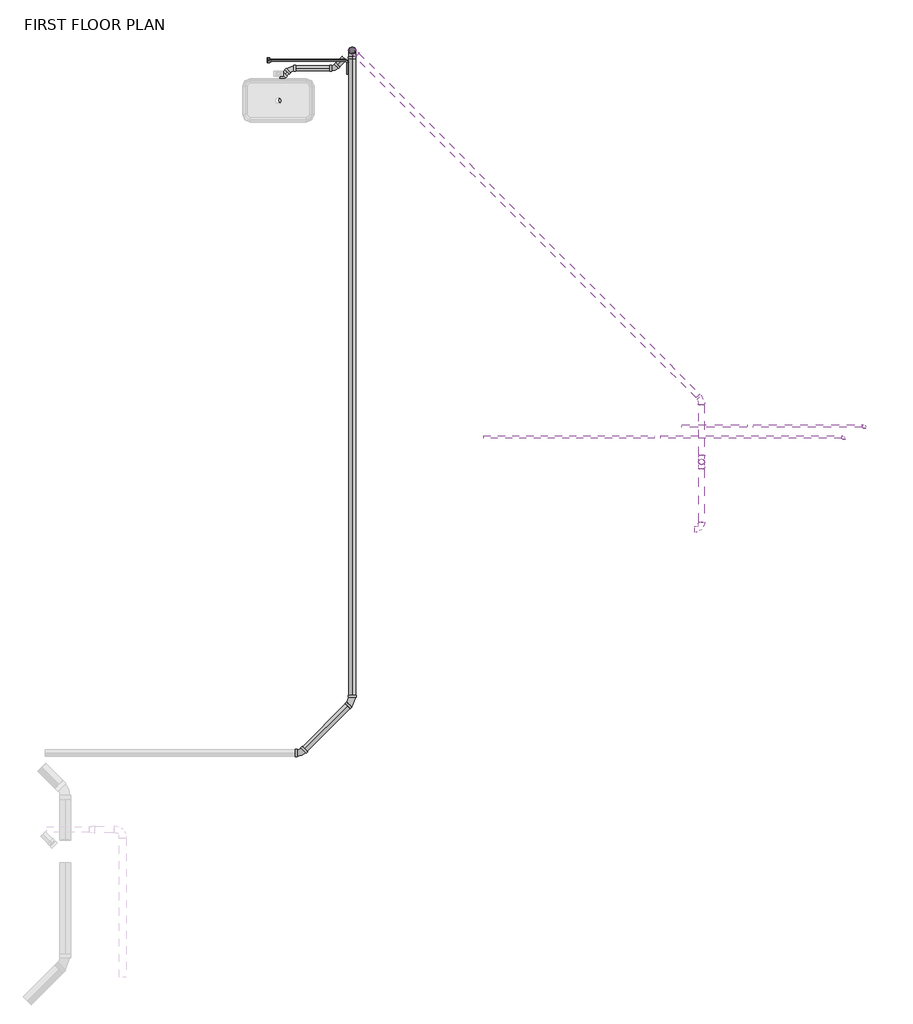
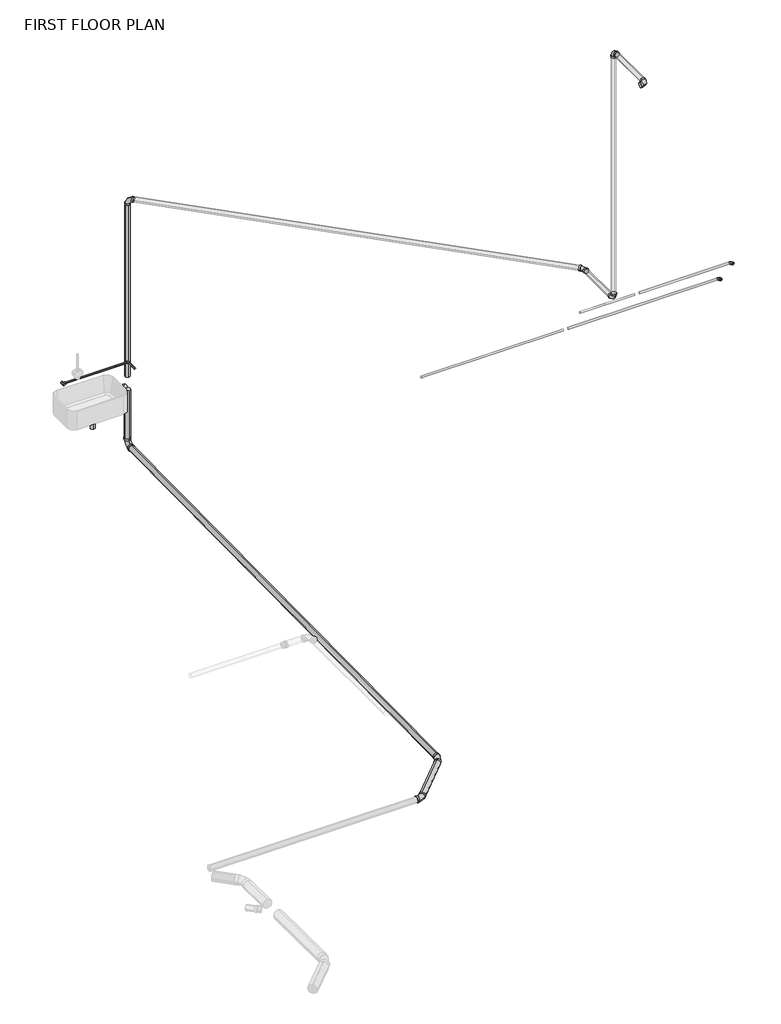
# One storey, part 2 of 2: 19 pipe segments, 17 pipe fittings.
"""IFC4 building model written with IfcOpenShell, lengths in millimetres."""

from ifc_helpers import new_model, si_unit, point, frame, frame_2d, origin, place, context, project, spatial, circle_curve, trimmed, segment, composite_curve, outline, extrude, transform, mapped, element, save
from components import bend_pvc_sch_40_dwv_standard_738aab8b, bend_pvc_sch_40_dwv_standard_1b30ce54, bend_pvc_sch_40_dwv_standard_febcfed9, bend_pvc_sch_40_dwv_standard_c61357fd, bend_pvc_sch_40_dwv_standard_046886ae, bend_pvc_sch_40_dwv_standard_6712e14b, pipe_elbow_copper_k_feaaf02c, pipe_elbow_copper_k_aad62f2d, pipe_tee_copper_k_1a6ca384, pipe_transition_copper_k_859ff352

model = new_model("IFC4")

# Units and contexts
model_context = context("Model", 3, world=origin())
ifc_project = project(units=[si_unit("LENGTHUNIT", "METRE", prefix="MILLI")], contexts=[model_context])

# Site, building, storey
site = spatial("IfcSite", under=ifc_project)
building = spatial("IfcBuilding", under=site)
storey = spatial("IfcBuildingStorey", under=building, Name="FIRST FLOOR PLAN", Elevation=0.0)

# Pipe fittings
placement = place(None, origin())
bend_pvc_sch_40_dwv_standard_shape = bend_pvc_sch_40_dwv_standard_738aab8b(model_context)
element("IfcPipeFitting", 1, ObjectType="Bend - PVC - Sch 40 - DWV : Standard", at=placement, inside=storey, context=model_context, shape_type="MappedRepresentation", body=[
    mapped(bend_pvc_sch_40_dwv_standard_shape, transform((18035.5543765, 9779.5615306, 2629.4989374), x_axis=(0.0, -1.0, 0.0), y_axis=(0.0, 0.0, 1.0), z_axis=(-1.0, 0.0, 0.0))),
])
element("IfcPipeFitting", 2, ObjectType="Bend - PVC - Sch 40 - DWV : Standard", at=placement, inside=storey, context=model_context, shape_type="MappedRepresentation", body=[
    mapped(bend_pvc_sch_40_dwv_standard_shape, transform((18035.5543765, 9779.5615306, 5486.4), x_axis=(0.0, 0.0, 1.0), y_axis=(0.0, -1.0, 0.0), z_axis=(1.0, 0.0, 0.0))),
])
element("IfcPipeFitting", 3, ObjectType="Bend - PVC - Sch 40 - DWV : Standard", at=placement, inside=storey, context=model_context, shape_type="MappedRepresentation", body=[
    mapped(bend_pvc_sch_40_dwv_standard_shape, transform((14869.7473007, 13510.7946693, 2629.4989374), x_axis=(0.0, 0.0, 1.0), y_axis=(0.7071067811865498, -0.7071067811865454, 0.0), z_axis=(0.7071067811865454, 0.7071067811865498, 0.0))),
])
element("IfcPipeFitting", 4, ObjectType="Bend - PVC - Sch 40 - DWV : Standard", at=placement, inside=storey, context=model_context, shape_type="MappedRepresentation", body=[
    mapped(bend_pvc_sch_40_dwv_standard_shape, transform((18035.5543765, 9169.9615306, 5486.4), x_axis=(1.0, 0.0, 0.0), y_axis=(0.0, 1.0, 0.0), z_axis=(0.0, 0.0, 1.0))),
])
bend_pvc_sch_40_dwv_standard_2_shape = bend_pvc_sch_40_dwv_standard_1b30ce54(model_context)
element("IfcPipeFitting", 5, ObjectType="Bend - PVC - Sch 40 - DWV : Standard", at=placement, inside=storey, context=model_context, shape_type="MappedRepresentation", body=[
    mapped(bend_pvc_sch_40_dwv_standard_2_shape, transform((18035.5543765, 10344.9875935, 2629.4989374), x_axis=(0.0, 1.0, 0.0), y_axis=(-1.0, 0.0, 0.0), z_axis=(0.0, 0.0, 1.0))),
])
element("IfcPipeFitting", 6, ObjectType="Bend - PVC - Sch 40 - DWV : Standard", at=placement, inside=storey, context=model_context, shape_type="MappedRepresentation", body=[
    mapped(bend_pvc_sch_40_dwv_standard_2_shape, transform((14310.853508, 13348.3302862, 533.2015652), x_axis=(-0.9999999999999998, 0.0, 2.0628979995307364e-08), y_axis=(0.0, -0.9999999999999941, -1.0839781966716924e-07), z_axis=(2.062897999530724e-08, -1.0839781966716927e-07, 0.9999999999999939))),
])
element("IfcPipeFitting", 7, ObjectType="Bend - PVC - Sch 40 - DWV : Standard", at=placement, inside=storey, context=model_context, shape_type="MappedRepresentation", body=[
    mapped(bend_pvc_sch_40_dwv_standard_2_shape, transform((14225.9570611, 13263.4338392, 533.2015653), x_axis=(-0.7071067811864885, -0.7071067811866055, 3.990767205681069e-08), y_axis=(0.7071067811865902, -0.7071067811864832, -1.757954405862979e-07), z_axis=(1.525251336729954e-07, -9.608716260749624e-08, 0.9999999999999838))),
])
bend_pvc_sch_40_dwv_standard_3_shape = bend_pvc_sch_40_dwv_standard_febcfed9(model_context)
element("IfcPipeFitting", 8, ObjectType="Bend - PVC - Sch 40 - DWV : Standard", at=placement, inside=storey, context=model_context, shape_type="MappedRepresentation", body=[
    mapped(bend_pvc_sch_40_dwv_standard_3_shape, transform((14403.941391, 7141.5988692, -278.8615489), x_axis=(0.9999955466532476, 0.0, 0.0029844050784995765), y_axis=(-3.505515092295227e-05, 0.9999310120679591, 0.011746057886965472), z_axis=(-0.002984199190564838, -0.011746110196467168, 0.9999265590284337))),
])
bend_pvc_sch_40_dwv_standard_4_shape = bend_pvc_sch_40_dwv_standard_c61357fd(model_context)
element("IfcPipeFitting", 9, ObjectType="Bend - PVC - Sch 40 - DWV : Standard", at=placement, inside=storey, context=model_context, shape_type="MappedRepresentation", body=[
    mapped(bend_pvc_sch_40_dwv_standard_4_shape, transform((14869.7473007, 7607.4047789, -271.9995798), x_axis=(0.7070684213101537, 0.7070684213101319, 0.01041610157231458), y_axis=(-0.707131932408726, 0.7070685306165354, 0.004303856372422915), z_axis=(-0.004321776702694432, -0.010408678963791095, 0.9999364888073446))),
])
bend_pvc_sch_40_dwv_standard_5_shape = bend_pvc_sch_40_dwv_standard_046886ae(model_context)
element("IfcPipeFitting", 10, ObjectType="Bend - PVC - Sch 40 - DWV : Standard", at=placement, inside=storey, context=model_context, shape_type="MappedRepresentation", body=[
    mapped(bend_pvc_sch_40_dwv_standard_5_shape, transform((14869.7473007, 13510.7946693, -210.549191), x_axis=(0.0, 0.0, -1.0), y_axis=(0.0, -1.0, 0.0), z_axis=(-1.0, 0.0, 0.0))),
])
bend_pvc_sch_40_dwv_standard_6_shape = bend_pvc_sch_40_dwv_standard_6712e14b(model_context)
element("IfcPipeFitting", 11, ObjectType="Bend - PVC - Sch 40 - DWV : Standard", at=placement, inside=storey, context=model_context, shape_type="MappedRepresentation", body=[
    mapped(bend_pvc_sch_40_dwv_standard_6_shape, transform((14707.4774977, 13348.3302862, 533.201557), x_axis=(0.9999999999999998, 0.0, -2.062897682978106e-08), y_axis=(0.0, 0.9999999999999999, 2.0626738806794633e-08), z_axis=(2.0628976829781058e-08, -2.0626738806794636e-08, 0.9999999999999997))),
])
pipe_elbow_copper_k_shape = pipe_elbow_copper_k_feaaf02c(model_context)
element("IfcPipeFitting", 12, ObjectType="Pipe Elbow : Copper- K", at=placement, inside=storey, context=model_context, shape_type="MappedRepresentation", body=[
    mapped(pipe_elbow_copper_k_shape, transform((19325.6297147, 10005.2226376, 2271.8592023), x_axis=(0.0, 1.0, 0.0), y_axis=(-1.0, 0.0, 0.0), z_axis=(0.0, 0.0, 1.0))),
])
element("IfcPipeFitting", 13, ObjectType="Pipe Elbow : Copper- K", at=placement, inside=storey, context=model_context, shape_type="MappedRepresentation", body=[
    mapped(pipe_elbow_copper_k_shape, transform((19514.0804305, 10106.9381796, 2328.0806516), x_axis=(0.0, 0.9999999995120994, 3.123781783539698e-05), y_axis=(-1.0, 0.0, 0.0), z_axis=(0.0, -3.123781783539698e-05, 0.9999999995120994))),
])
pipe_elbow_copper_k_2_shape = pipe_elbow_copper_k_aad62f2d(model_context)
element("IfcPipeFitting", 14, ObjectType="Pipe Elbow : Copper- K", at=placement, inside=storey, context=model_context, shape_type="MappedRepresentation", body=[
    mapped(pipe_elbow_copper_k_2_shape, transform((14827.2912209, 13419.6990306, 810.3195313), x_axis=(0.0, 1.0, 0.0), y_axis=(-0.9999998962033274, 0.0, 0.00045562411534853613), z_axis=(0.00045562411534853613, 0.0, 0.9999998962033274))),
])
pipe_tee_copper_k_shape = pipe_tee_copper_k_1a6ca384(model_context)
element("IfcPipeFitting", 15, ObjectType="Pipe Tee : Copper- K", at=placement, inside=storey, context=model_context, shape_type="MappedRepresentation", body=[
    mapped(pipe_tee_copper_k_shape, transform((14109.7413899, 13419.6990306, 810.6632556), x_axis=(0.0, 1.0, 0.0), y_axis=(-0.9999993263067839, 0.0, 0.0011607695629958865), z_axis=(0.0011607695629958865, 0.0, 0.9999993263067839))),
])
pipe_transition_copper_k_shape = pipe_transition_copper_k_859ff352(model_context)
element("IfcPipeFitting", 16, ObjectType="Pipe Transition : Copper- K", at=placement, inside=storey, context=model_context, shape_type="MappedRepresentation", body=[
    mapped(pipe_transition_copper_k_shape, transform((19514.0804305, 10086.3006796, 2328.0800069), x_axis=(0.0, -0.9999999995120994, -3.123781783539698e-05), y_axis=(1.0, 0.0, 0.0), z_axis=(0.0, -3.123781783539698e-05, 0.9999999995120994))),
])
element("IfcPipeFitting", 17, ObjectType="Pipe Transition : Copper- K", at=placement, inside=storey, context=model_context, shape_type="MappedRepresentation", body=[
    mapped(pipe_transition_copper_k_shape, transform((19325.6297147, 9984.5851376, 2271.8592023), x_axis=(0.0, -1.0, 0.0), y_axis=(1.0, 0.0, 0.0), z_axis=(0.0, 0.0, 1.0))),
])

# Pipe segments
element("IfcPipeSegment", 18, ObjectType="Cast Iron - SAN/STORM", at=placement, inside=storey, context=model_context, shape_type="SweptSolid", body=[
    extrude(outline(composite_curve([segment(trimmed(circle_curve(frame_2d((0.0, 30.1625)), 30.1625), [point((30.1608639, 29.8483414))], [point((-0.3141586, 0.0016361))], False, "CARTESIAN"), True, "CONTINUOUS"), segment(trimmed(circle_curve(frame_2d((0.0, 30.1625)), 30.1625), [point((-0.3141586, 0.0016361))], [point((-30.1608639, 30.4766586))], False, "CARTESIAN"), True, "CONTINUOUS"), segment(trimmed(circle_curve(frame_2d((0.0, 30.1625)), 30.1625), [point((-30.1608639, 30.4766586))], [point((0.3141587, 60.3233639))], False, "CARTESIAN"), True, "CONTINUOUS"), segment(trimmed(circle_curve(frame_2d((0.0, 30.1625)), 30.1625), [point((0.3141587, 60.3233639))], [point((30.1608639, 29.8483414))], False, "CARTESIAN"), True, "CONTINUOUS")], self_intersect=False)), frame((14440.9919177, 7178.2051085, -248.1565154), z_axis=(0.7070684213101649, 0.7070684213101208, 0.010416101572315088), x_axis=(0.7071451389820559, -0.7069917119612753, -0.010414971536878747)), (0.0, 0.0, 1.0), 549.2345733),
])
element("IfcPipeSegment", 19, ObjectType="Cast Iron - SAN/STORM", at=placement, inside=storey, context=model_context, shape_type="SweptSolid", body=[
    extrude(outline(composite_curve([segment(trimmed(circle_curve(frame_2d((0.0, -30.1625)), 30.1625), [point((-30.1625, -30.1625))], [point((0.0, 0.0))], False, "CARTESIAN"), True, "CONTINUOUS"), segment(trimmed(circle_curve(frame_2d((0.0, -30.1625)), 30.1625), [point((0.0, 0.0))], [point((30.1625, -30.1625))], False, "CARTESIAN"), True, "CONTINUOUS"), segment(trimmed(circle_curve(frame_2d((0.0, -30.1625)), 30.1625), [point((30.1625, -30.1625))], [point((0.0, -60.325))], False, "CARTESIAN"), True, "CONTINUOUS"), segment(trimmed(circle_curve(frame_2d((0.0, -30.1625)), 30.1625), [point((0.0, -60.325))], [point((-30.1625, -30.1625))], False, "CARTESIAN"), True, "CONTINUOUS")], self_intersect=False)), frame((14869.7473007, 7664.8656376, -301.5655842), z_axis=(0.0, 0.9999458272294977, 0.010408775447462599), x_axis=(1.0, 0.0, 0.0)), (0.0, 0.0, 1.0), 5768.7595108),
])
element("IfcPipeSegment", 20, ObjectType="Cast Iron - SAN/STORM", at=placement, inside=storey, context=model_context, shape_type="SweptSolid", body=[
    extrude(outline(composite_curve([segment(trimmed(circle_curve(frame_2d((533.2015609, 14225.9570611)), 24.209375), [point((533.2015609, 14201.7476861))], [point((508.9921859, 14225.9570611))], False, "CARTESIAN"), True, "CONTINUOUS"), segment(trimmed(circle_curve(frame_2d((533.2015609, 14225.9570611)), 24.209375), [point((508.9921859, 14225.9570611))], [point((533.2015609, 14250.1664361))], False, "CARTESIAN"), True, "CONTINUOUS"), segment(trimmed(circle_curve(frame_2d((533.2015609, 14225.9570611)), 24.209375), [point((533.2015609, 14250.1664361))], [point((557.4109359, 14225.9570611))], False, "CARTESIAN"), True, "CONTINUOUS"), segment(trimmed(circle_curve(frame_2d((533.2015609, 14225.9570611)), 24.209375), [point((557.4109359, 14225.9570611))], [point((533.2015609, 14201.7476861))], False, "CARTESIAN"), True, "CONTINUOUS")], self_intersect=False)), frame((0.0, 13174.5338392, 0.0), z_axis=(0.0, 1.0, 0.0), x_axis=(0.0, 0.0, 1.0)), (0.0, 0.0, 1.0), 42.8752),
])
element("IfcPipeSegment", 21, ObjectType="Cast Iron - SAN/STORM", at=placement, inside=storey, context=model_context, shape_type="SweptSolid", body=[
    extrude(outline(composite_curve([segment(trimmed(circle_curve(frame_2d((14225.7919231, 13056.9319551)), 24.209375), [point((14201.5825481, 13056.9319551))], [point((14225.7919231, 13081.1413301))], False, "CARTESIAN"), True, "CONTINUOUS"), segment(trimmed(circle_curve(frame_2d((14225.7919231, 13056.9319551)), 24.209375), [point((14225.7919231, 13081.1413301))], [point((14250.0012981, 13056.9319551))], False, "CARTESIAN"), True, "CONTINUOUS"), segment(trimmed(circle_curve(frame_2d((14225.7919231, 13056.9319551)), 24.209375), [point((14250.0012981, 13056.9319551))], [point((14225.7919231, 13032.7225801))], False, "CARTESIAN"), True, "CONTINUOUS"), segment(trimmed(circle_curve(frame_2d((14225.7919231, 13056.9319551)), 24.209375), [point((14225.7919231, 13032.7225801))], [point((14201.5825481, 13056.9319551))], False, "CARTESIAN"), True, "CONTINUOUS")], self_intersect=False)), frame((0.0, 0.0, 477.6748589), z_axis=(0.0, 0.0, 1.0), x_axis=(1.0, 0.0, 0.0)), (0.0, 0.0, 1.0), 202.3705313),
])
element("IfcPipeSegment", 22, ObjectType="Cast Iron - SAN/STORM", at=placement, inside=storey, context=model_context, shape_type="SweptSolid", body=[
    extrude(outline(composite_curve([segment(trimmed(circle_curve(frame_2d((0.0, 24.209375)), 24.209375), [point((24.209375, 24.209375))], [point((0.0, 0.0))], False, "CARTESIAN"), True, "CONTINUOUS"), segment(trimmed(circle_curve(frame_2d((0.0, 24.209375)), 24.209375), [point((0.0, 0.0))], [point((-24.209375, 24.209375))], False, "CARTESIAN"), True, "CONTINUOUS"), segment(trimmed(circle_curve(frame_2d((0.0, 24.209375)), 24.209375), [point((-24.209375, 24.209375))], [point((0.0, 48.41875))], False, "CARTESIAN"), True, "CONTINUOUS"), segment(trimmed(circle_curve(frame_2d((0.0, 24.209375)), 24.209375), [point((0.0, 48.41875))], [point((24.209375, 24.209375))], False, "CARTESIAN"), True, "CONTINUOUS")], self_intersect=False)), frame((14737.5903691, 13378.6313139, 557.4442674), z_axis=(0.7070684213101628, 0.707145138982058, 0.0), x_axis=(0.707145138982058, -0.7070684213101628, 0.0)), (0.0, 0.0, 1.0), 83.7334646),
])
element("IfcPipeSegment", 23, ObjectType="Cast Iron - SAN/STORM", at=placement, inside=storey, context=model_context, shape_type="SweptSolid", body=[
    extrude(outline(composite_curve([segment(trimmed(circle_curve(frame_2d((14869.7473007, 13510.7946693)), 30.1625), [point((14899.9098007, 13510.7946693))], [point((14869.7473007, 13480.6321693))], False, "CARTESIAN"), True, "CONTINUOUS"), segment(trimmed(circle_curve(frame_2d((14869.7473007, 13510.7946693)), 30.1625), [point((14869.7473007, 13480.6321693))], [point((14839.5848007, 13510.7946693))], False, "CARTESIAN"), True, "CONTINUOUS"), segment(trimmed(circle_curve(frame_2d((14869.7473007, 13510.7946693)), 30.1625), [point((14839.5848007, 13510.7946693))], [point((14869.7473007, 13540.9571693))], False, "CARTESIAN"), True, "CONTINUOUS"), segment(trimmed(circle_curve(frame_2d((14869.7473007, 13510.7946693)), 30.1625), [point((14869.7473007, 13540.9571693))], [point((14899.9098007, 13510.7946693))], False, "CARTESIAN"), True, "CONTINUOUS")], self_intersect=False)), frame((0.0, 0.0, -132.748991), z_axis=(0.0, 0.0, 1.0), x_axis=(1.0, 0.0, 0.0)), (0.0, 0.0, 1.0), 557.5337626),
])
element("IfcPipeSegment", 24, ObjectType="Cast Iron - SAN/STORM", at=placement, inside=storey, context=model_context, shape_type="SweptSolid", body=[
    extrude(outline(composite_curve([segment(trimmed(circle_curve(frame_2d((13348.3302862, 533.2015579)), 24.209375), [point((13372.5396612, 533.2015579))], [point((13348.3302862, 508.9921829))], False, "CARTESIAN"), True, "CONTINUOUS"), segment(trimmed(circle_curve(frame_2d((13348.3302862, 533.2015579)), 24.209375), [point((13348.3302862, 508.9921829))], [point((13324.1209112, 533.2015579))], False, "CARTESIAN"), True, "CONTINUOUS"), segment(trimmed(circle_curve(frame_2d((13348.3302862, 533.2015579)), 24.209375), [point((13324.1209112, 533.2015579))], [point((13348.3302862, 557.4109329))], False, "CARTESIAN"), True, "CONTINUOUS"), segment(trimmed(circle_curve(frame_2d((13348.3302862, 533.2015579)), 24.209375), [point((13348.3302862, 557.4109329))], [point((13372.5396612, 533.2015579))], False, "CARTESIAN"), True, "CONTINUOUS")], self_intersect=False)), frame((14356.878308, 0.0, 0.0), z_axis=(1.0, 0.0, 0.0), x_axis=(0.0, 1.0, 0.0)), (0.0, 0.0, 1.0), 307.7493897),
])
element("IfcPipeSegment", 25, ObjectType="Cast Iron - SAN/STORM", at=placement, inside=storey, context=model_context, shape_type="SweptSolid", body=[
    extrude(outline(composite_curve([segment(trimmed(circle_curve(frame_2d((0.0, -24.209375)), 24.209375), [point((-24.209375, -24.209375))], [point((0.0, 0.0))], False, "CARTESIAN"), True, "CONTINUOUS"), segment(trimmed(circle_curve(frame_2d((0.0, -24.209375)), 24.209375), [point((0.0, 0.0))], [point((24.209375, -24.209375))], False, "CARTESIAN"), True, "CONTINUOUS"), segment(trimmed(circle_curve(frame_2d((0.0, -24.209375)), 24.209375), [point((24.209375, -24.209375))], [point((0.0, -48.41875))], False, "CARTESIAN"), True, "CONTINUOUS"), segment(trimmed(circle_curve(frame_2d((0.0, -24.209375)), 24.209375), [point((0.0, -48.41875))], [point((-24.209375, -24.209375))], False, "CARTESIAN"), True, "CONTINUOUS")], self_intersect=False)), frame((14258.5015093, 13295.9782874, 508.9921873), z_axis=(0.7071067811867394, 0.7071067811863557, 0.0), x_axis=(0.7071067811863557, -0.7071067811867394, 0.0)), (0.0, 0.0, 1.0), 28.0121067),
])
element("IfcPipeSegment", 26, ObjectType="Cast Iron - VENT", at=placement, inside=storey, context=model_context, shape_type="SweptSolid", body=[
    extrude(outline(composite_curve([segment(trimmed(circle_curve(frame_2d((14869.7473007, 13510.7946693)), 24.209375), [point((14845.5379257, 13510.7946693))], [point((14869.7473007, 13535.0040443))], False, "CARTESIAN"), True, "CONTINUOUS"), segment(trimmed(circle_curve(frame_2d((14869.7473007, 13510.7946693)), 24.209375), [point((14869.7473007, 13535.0040443))], [point((14893.9566757, 13510.7946693))], False, "CARTESIAN"), True, "CONTINUOUS"), segment(trimmed(circle_curve(frame_2d((14869.7473007, 13510.7946693)), 24.209375), [point((14893.9566757, 13510.7946693))], [point((14869.7473007, 13486.5852943))], False, "CARTESIAN"), True, "CONTINUOUS"), segment(trimmed(circle_curve(frame_2d((14869.7473007, 13510.7946693)), 24.209375), [point((14869.7473007, 13486.5852943))], [point((14845.5379257, 13510.7946693))], False, "CARTESIAN"), True, "CONTINUOUS")], self_intersect=False)), frame((0.0, 0.0, 578.7595716), z_axis=(0.0, 0.0, 1.0), x_axis=(1.0, 0.0, 0.0)), (0.0, 0.0, 1.0), 1988.8395658),
])
element("IfcPipeSegment", 27, ObjectType="Cast Iron - VENT", at=placement, inside=storey, context=model_context, shape_type="SweptSolid", body=[
    extrude(outline(composite_curve([segment(trimmed(circle_curve(frame_2d((0.0, 24.209375)), 24.209375), [point((24.209375, 24.209375))], [point((0.0, 0.0))], False, "CARTESIAN"), True, "CONTINUOUS"), segment(trimmed(circle_curve(frame_2d((0.0, 24.209375)), 24.209375), [point((0.0, 0.0))], [point((-24.209375, 24.209375))], False, "CARTESIAN"), True, "CONTINUOUS"), segment(trimmed(circle_curve(frame_2d((0.0, 24.209375)), 24.209375), [point((-24.209375, 24.209375))], [point((0.0, 48.41875))], False, "CARTESIAN"), True, "CONTINUOUS"), segment(trimmed(circle_curve(frame_2d((0.0, 24.209375)), 24.209375), [point((0.0, 48.41875))], [point((24.209375, 24.209375))], False, "CARTESIAN"), True, "CONTINUOUS")], self_intersect=False)), frame((18003.0099283, 10377.5320417, 2653.7083124), z_axis=(-0.707106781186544, 0.7071067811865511, 0.0), x_axis=(0.7071067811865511, 0.707106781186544, 0.0)), (0.0, 0.0, 1.0), 4369.2027025),
])
element("IfcPipeSegment", 28, ObjectType="Cast Iron - VENT", at=placement, inside=storey, context=model_context, shape_type="SweptSolid", body=[
    extrude(outline(composite_curve([segment(trimmed(circle_curve(frame_2d((2629.4989374, 18035.5543765)), 24.209375), [point((2629.4989374, 18011.3450015))], [point((2605.2895624, 18035.5543765))], False, "CARTESIAN"), True, "CONTINUOUS"), segment(trimmed(circle_curve(frame_2d((2629.4989374, 18035.5543765)), 24.209375), [point((2605.2895624, 18035.5543765))], [point((2629.4989374, 18059.7637515))], False, "CARTESIAN"), True, "CONTINUOUS"), segment(trimmed(circle_curve(frame_2d((2629.4989374, 18035.5543765)), 24.209375), [point((2629.4989374, 18059.7637515))], [point((2653.7083124, 18035.5543765))], False, "CARTESIAN"), True, "CONTINUOUS"), segment(trimmed(circle_curve(frame_2d((2629.4989374, 18035.5543765)), 24.209375), [point((2653.7083124, 18035.5543765))], [point((2629.4989374, 18011.3450015))], False, "CARTESIAN"), True, "CONTINUOUS")], self_intersect=False)), frame((0.0, 9841.4613306, 0.0), z_axis=(0.0, 1.0, 0.0), x_axis=(0.0, 0.0, 1.0)), (0.0, 0.0, 1.0), 457.5014629),
])
element("IfcPipeSegment", 29, ObjectType="Cast Iron - VENT", at=placement, inside=storey, context=model_context, shape_type="SweptSolid", body=[
    extrude(outline(composite_curve([segment(trimmed(circle_curve(frame_2d((5486.4, 18035.5543765)), 24.209375), [point((5486.4, 18011.3450015))], [point((5462.190625, 18035.5543765))], False, "CARTESIAN"), True, "CONTINUOUS"), segment(trimmed(circle_curve(frame_2d((5486.4, 18035.5543765)), 24.209375), [point((5462.190625, 18035.5543765))], [point((5486.4, 18059.7637515))], False, "CARTESIAN"), True, "CONTINUOUS"), segment(trimmed(circle_curve(frame_2d((5486.4, 18035.5543765)), 24.209375), [point((5486.4, 18059.7637515))], [point((5510.609375, 18035.5543765))], False, "CARTESIAN"), True, "CONTINUOUS"), segment(trimmed(circle_curve(frame_2d((5486.4, 18035.5543765)), 24.209375), [point((5510.609375, 18035.5543765))], [point((5486.4, 18011.3450015))], False, "CARTESIAN"), True, "CONTINUOUS")], self_intersect=False)), frame((0.0, 9231.8613306, 0.0), z_axis=(0.0, 1.0, 0.0), x_axis=(0.0, 0.0, 1.0)), (0.0, 0.0, 1.0), 485.8004),
])
element("IfcPipeSegment", 30, ObjectType="Cast Iron - VENT", at=placement, inside=storey, context=model_context, shape_type="SweptSolid", body=[
    extrude(outline(composite_curve([segment(trimmed(circle_curve(frame_2d((18035.5543765, 9779.5615306)), 24.209375), [point((18011.3450015, 9779.5615306))], [point((18035.5543765, 9803.7709056))], False, "CARTESIAN"), True, "CONTINUOUS"), segment(trimmed(circle_curve(frame_2d((18035.5543765, 9779.5615306)), 24.209375), [point((18035.5543765, 9803.7709056))], [point((18059.7637515, 9779.5615306))], False, "CARTESIAN"), True, "CONTINUOUS"), segment(trimmed(circle_curve(frame_2d((18035.5543765, 9779.5615306)), 24.209375), [point((18059.7637515, 9779.5615306))], [point((18035.5543765, 9755.3521556))], False, "CARTESIAN"), True, "CONTINUOUS"), segment(trimmed(circle_curve(frame_2d((18035.5543765, 9779.5615306)), 24.209375), [point((18035.5543765, 9755.3521556))], [point((18011.3450015, 9779.5615306))], False, "CARTESIAN"), True, "CONTINUOUS")], self_intersect=False)), frame((0.0, 0.0, 2691.3987374), z_axis=(0.0, 0.0, 1.0), x_axis=(1.0, 0.0, 0.0)), (0.0, 0.0, 1.0), 2733.1014626),
])
element("IfcPipeSegment", 31, ObjectType="Copper", at=placement, inside=storey, context=model_context, shape_type="SweptSolid", body=[
    extrude(outline(composite_curve([segment(trimmed(circle_curve(frame_2d((10106.9381796, 2328.0806516)), 11.1125), [point((10095.8256796, 2328.0806516))], [point((10106.9381796, 2339.1931516))], False, "CARTESIAN"), True, "CONTINUOUS"), segment(trimmed(circle_curve(frame_2d((10106.9381796, 2328.0806516)), 11.1125), [point((10106.9381796, 2339.1931516))], [point((10118.0506796, 2328.0806516))], False, "CARTESIAN"), True, "CONTINUOUS"), segment(trimmed(circle_curve(frame_2d((10106.9381796, 2328.0806516)), 11.1125), [point((10118.0506796, 2328.0806516))], [point((10106.9381796, 2316.9681516))], False, "CARTESIAN"), True, "CONTINUOUS"), segment(trimmed(circle_curve(frame_2d((10106.9381796, 2328.0806516)), 11.1125), [point((10106.9381796, 2316.9681516))], [point((10095.8256796, 2328.0806516))], False, "CARTESIAN"), True, "CONTINUOUS")], self_intersect=False)), frame((18505.6215107, 0.0, 0.0), z_axis=(1.0, 0.0, 0.0), x_axis=(0.0, 1.0, 0.0)), (0.0, 0.0, 1.0), 987.8214198),
])
element("IfcPipeSegment", 32, ObjectType="Copper", at=placement, inside=storey, context=model_context, shape_type="SweptSolid", body=[
    extrude(outline(composite_curve([segment(trimmed(circle_curve(frame_2d((10005.2226376, 2271.8592023)), 11.1125), [point((9994.1101376, 2271.8592023))], [point((10005.2226376, 2282.9717023))], False, "CARTESIAN"), True, "CONTINUOUS"), segment(trimmed(circle_curve(frame_2d((10005.2226376, 2271.8592023)), 11.1125), [point((10005.2226376, 2282.9717023))], [point((10016.3351376, 2271.8592023))], False, "CARTESIAN"), True, "CONTINUOUS"), segment(trimmed(circle_curve(frame_2d((10005.2226376, 2271.8592023)), 11.1125), [point((10016.3351376, 2271.8592023))], [point((10005.2226376, 2260.7467023))], False, "CARTESIAN"), True, "CONTINUOUS"), segment(trimmed(circle_curve(frame_2d((10005.2226376, 2271.8592023)), 11.1125), [point((10005.2226376, 2260.7467023))], [point((9994.1101376, 2271.8592023))], False, "CARTESIAN"), True, "CONTINUOUS")], self_intersect=False)), frame((17666.2520251, 0.0, 0.0), z_axis=(1.0, 0.0, 0.0), x_axis=(0.0, 1.0, 0.0)), (0.0, 0.0, 1.0), 1638.7401896),
])
element("IfcPipeSegment", 33, ObjectType="Copper", at=placement, inside=storey, context=model_context, shape_type="SweptSolid", body=[
    extrude(outline(composite_curve([segment(trimmed(circle_curve(frame_2d((10106.9381796, 2328.0806516)), 11.1125), [point((10095.8256796, 2328.0806516))], [point((10106.9381796, 2339.1931516))], False, "CARTESIAN"), True, "CONTINUOUS"), segment(trimmed(circle_curve(frame_2d((10106.9381796, 2328.0806516)), 11.1125), [point((10106.9381796, 2339.1931516))], [point((10118.0506796, 2328.0806516))], False, "CARTESIAN"), True, "CONTINUOUS"), segment(trimmed(circle_curve(frame_2d((10106.9381796, 2328.0806516)), 11.1125), [point((10118.0506796, 2328.0806516))], [point((10106.9381796, 2316.9681516))], False, "CARTESIAN"), True, "CONTINUOUS"), segment(trimmed(circle_curve(frame_2d((10106.9381796, 2328.0806516)), 11.1125), [point((10106.9381796, 2316.9681516))], [point((10095.8256796, 2328.0806516))], False, "CARTESIAN"), True, "CONTINUOUS")], self_intersect=False)), frame((17854.7027409, 0.0, 0.0), z_axis=(1.0, 0.0, 0.0), x_axis=(0.0, 1.0, 0.0)), (0.0, 0.0, 1.0), 596.9437698),
])
element("IfcPipeSegment", 34, ObjectType="Copper", at=placement, inside=storey, context=model_context, shape_type="SweptSolid", body=[
    extrude(outline(composite_curve([segment(trimmed(circle_curve(frame_2d((10005.2226376, 2271.8592023)), 11.1125), [point((9994.1101376, 2271.8592023))], [point((10005.2226376, 2282.9717023))], False, "CARTESIAN"), True, "CONTINUOUS"), segment(trimmed(circle_curve(frame_2d((10005.2226376, 2271.8592023)), 11.1125), [point((10005.2226376, 2282.9717023))], [point((10016.3351376, 2271.8592023))], False, "CARTESIAN"), True, "CONTINUOUS"), segment(trimmed(circle_curve(frame_2d((10005.2226376, 2271.8592023)), 11.1125), [point((10016.3351376, 2271.8592023))], [point((10005.2226376, 2260.7467023))], False, "CARTESIAN"), True, "CONTINUOUS"), segment(trimmed(circle_curve(frame_2d((10005.2226376, 2271.8592023)), 11.1125), [point((10005.2226376, 2260.7467023))], [point((9994.1101376, 2271.8592023))], False, "CARTESIAN"), True, "CONTINUOUS")], self_intersect=False)), frame((16060.345114, 0.0, 0.0), z_axis=(1.0, 0.0, 0.0), x_axis=(0.0, 1.0, 0.0)), (0.0, 0.0, 1.0), 1551.9319111),
])
element("IfcPipeSegment", 35, ObjectType="Copper", at=placement, inside=storey, context=model_context, shape_type="SweptSolid", body=[
    extrude(outline(composite_curve([segment(trimmed(circle_curve(frame_2d((0.0, -7.9375)), 7.9375), [point((-7.9375, -7.9375))], [point((0.0, 0.0))], False, "CARTESIAN"), True, "CONTINUOUS"), segment(trimmed(circle_curve(frame_2d((0.0, -7.9375)), 7.9375), [point((0.0, 0.0))], [point((7.9375, -7.9375))], False, "CARTESIAN"), True, "CONTINUOUS"), segment(trimmed(circle_curve(frame_2d((0.0, -7.9375)), 7.9375), [point((7.9375, -7.9375))], [point((0.0, -15.875))], False, "CARTESIAN"), True, "CONTINUOUS"), segment(trimmed(circle_curve(frame_2d((0.0, -7.9375)), 7.9375), [point((0.0, -15.875))], [point((-7.9375, -7.9375))], False, "CARTESIAN"), True, "CONTINUOUS")], self_intersect=False)), frame((14809.8251062, 13419.6990306, 802.3899884), z_axis=(-0.9999998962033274, 0.0, 0.00045562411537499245), x_axis=(0.0, 1.0, 0.0)), (0.0, 0.0, 1.0), 676.2749191),
])
element("IfcPipeSegment", 36, ObjectType="Copper", at=placement, inside=storey, context=model_context, shape_type="SweptSolid", body=[
    extrude(outline(composite_curve([segment(trimmed(circle_curve(frame_2d((810.3195312, 14827.2912209)), 7.9375), [point((810.3195312, 14819.3537209))], [point((802.3820312, 14827.2912209))], False, "CARTESIAN"), True, "CONTINUOUS"), segment(trimmed(circle_curve(frame_2d((810.3195312, 14827.2912209)), 7.9375), [point((802.3820312, 14827.2912209))], [point((810.3195312, 14835.2287209))], False, "CARTESIAN"), True, "CONTINUOUS"), segment(trimmed(circle_curve(frame_2d((810.3195312, 14827.2912209)), 7.9375), [point((810.3195312, 14835.2287209))], [point((818.2570312, 14827.2912209))], False, "CARTESIAN"), True, "CONTINUOUS"), segment(trimmed(circle_curve(frame_2d((810.3195312, 14827.2912209)), 7.9375), [point((818.2570312, 14827.2912209))], [point((810.3195312, 14819.3537209))], False, "CARTESIAN"), True, "CONTINUOUS")], self_intersect=False)), frame((0.0, 13295.0801375, 0.0), z_axis=(0.0, 1.0, 0.0), x_axis=(0.0, 0.0, 1.0)), (0.0, 0.0, 1.0), 107.1563931),
])

save(model, "model.ifc")
